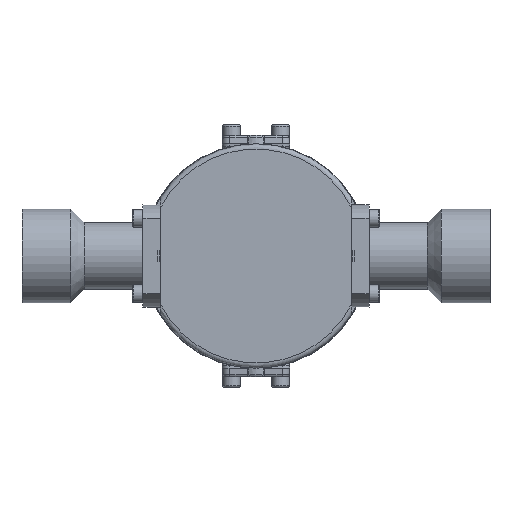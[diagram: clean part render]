
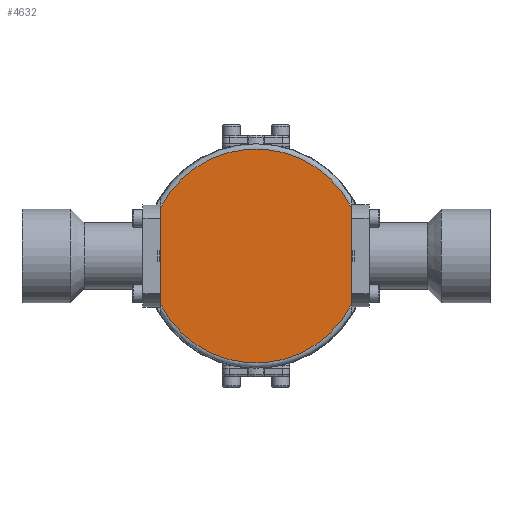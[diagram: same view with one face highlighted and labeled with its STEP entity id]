
A CAD part, front view. The second image highlights one B-rep face of the part: STEP entity #4632.
In plain terms, the highlighted planar face has unit normal (0, -1, 0).
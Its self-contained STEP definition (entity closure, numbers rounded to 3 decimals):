
#400=PLANE('',#5320);
#632=LINE('',#7841,#847);
#655=LINE('',#7977,#870);
#847=VECTOR('',#5870,10.);
#870=VECTOR('',#5965,10.);
#1206=FACE_OUTER_BOUND('',#1523,.T.);
#1523=EDGE_LOOP('',(#3556,#3557,#3558,#3559));
#1899=CIRCLE('',#5319,61.5);
#1900=CIRCLE('',#5321,61.5);
#2150=VERTEX_POINT('',#7824);
#2152=VERTEX_POINT('',#7840);
#2183=VERTEX_POINT('',#7941);
#2187=VERTEX_POINT('',#7962);
#2597=EDGE_CURVE('',#2152,#2150,#632,.T.);
#2645=EDGE_CURVE('',#2183,#2187,#655,.T.);
#2736=EDGE_CURVE('',#2183,#2150,#1899,.T.);
#2737=EDGE_CURVE('',#2152,#2187,#1900,.T.);
#3556=ORIENTED_EDGE('',*,*,#2736,.F.);
#3557=ORIENTED_EDGE('',*,*,#2645,.T.);
#3558=ORIENTED_EDGE('',*,*,#2737,.F.);
#3559=ORIENTED_EDGE('',*,*,#2597,.T.);
#4632=ADVANCED_FACE('',(#1206),#400,.T.);
#5319=AXIS2_PLACEMENT_3D('',#8154,#6179,#6180);
#5320=AXIS2_PLACEMENT_3D('',#8155,#6181,#6182);
#5321=AXIS2_PLACEMENT_3D('',#8156,#6183,#6184);
#5870=DIRECTION('',(0.,0.,-1.));
#5965=DIRECTION('',(0.,0.,1.));
#6179=DIRECTION('center_axis',(0.,1.,0.));
#6180=DIRECTION('ref_axis',(0.,0.,
-1.));
#6181=DIRECTION('center_axis',(0.,-1.,0.));
#6182=DIRECTION('ref_axis',(0.,0.,-1.));
#6183=DIRECTION('center_axis',(0.,1.,0.));
#6184=DIRECTION('ref_axis',(0.,0.,
1.));
#7824=CARTESIAN_POINT('',(-55.,0.,-27.518));
#7840=CARTESIAN_POINT('',(-55.,0.,27.518));
#7841=CARTESIAN_POINT('',(-55.,0.,0.));
#7941=CARTESIAN_POINT('',(55.,0.,-27.518));
#7962=CARTESIAN_POINT('',(55.,0.,27.518));
#7977=CARTESIAN_POINT('',(55.,0.,0.));
#8154=CARTESIAN_POINT('Origin',(0.,0.,0.));
#8155=CARTESIAN_POINT('Origin',(0.,0.,0.));
#8156=CARTESIAN_POINT('Origin',(0.,0.,0.));
